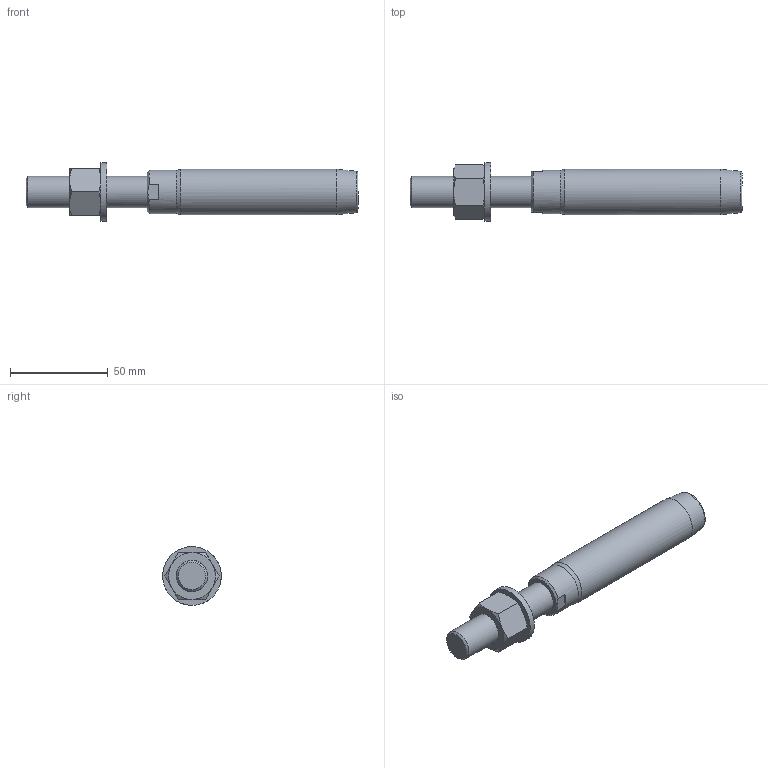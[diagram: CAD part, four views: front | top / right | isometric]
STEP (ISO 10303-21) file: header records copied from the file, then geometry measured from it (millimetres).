
FILE_DESCRIPTION(/* description */ (''),/* implementation_level */ '2;1');
FILE_NAME(/* name */ 'FLT 10_1,4462',/* time_stamp */ '2023-05-23T15:58:03+02:00',/* author */ (''),/* organization */ (''),/* preprocessor_version */ 'ST-DEVELOPER v16.5',/* originating_system */ 'Rhino 7.22',/* authorisation */ '');
FILE_SCHEMA (('CONFIG_CONTROL_DESIGN'));
Length unit declared in the file: millimetre
Products named in the file (1): Document
Bounding box: 170 x 29.99 x 29.99 mm (x, y, z)
Volume: 64273.4 mm3; surface area: 15619.5 mm2
Topology: 3 solids, 3 shells, 42 faces, 102 edges, 67 vertices
Faces by surface type: bspline 19, plane 17, cylinder 6
Full cylindrical faces by diameter (mm): 13.835 x1, 16 x1, 17 x1, 22.2 x1, 23.3 x1, 30 x1
Entity records: 1559 total; most frequent: CARTESIAN_POINT 861, ORIENTED_EDGE 204, EDGE_CURVE 102, VERTEX_POINT 67, EDGE_LOOP 47, ADVANCED_FACE 42, FACE_OUTER_BOUND 42, DIRECTION 27
